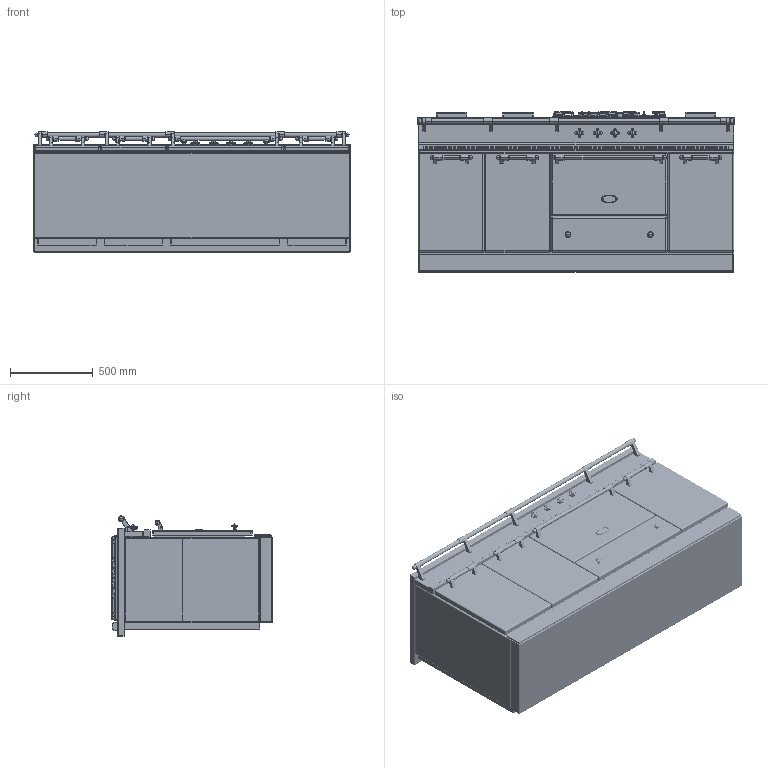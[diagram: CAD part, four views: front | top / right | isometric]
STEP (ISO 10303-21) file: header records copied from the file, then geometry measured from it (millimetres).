
FILE_DESCRIPTION((''),'2;1');
FILE_NAME('LG1931G_ASM','2021-12-08T09:02:28',('r.avril'),(''),'CREO PARAMETRIC BY PTC INC, 2017260','CREO PARAMETRIC BY PTC INC, 2017260','');
FILE_SCHEMA(('AP203_CONFIGURATION_CONTROLLED_3D_DESIGN_OF_MECHANICAL_PARTS_AND_ASSEMBLIES_MIM_LF { 1 0 10303 403 2 1 2 }'));
Products named in the file (28): BASE_EXPORT_FONTENAY_LG1931G; 65650003; 65650004; 65650006; 65650007; 6531940; 6531941; 6531943; 65049009; 65650001; 6538399; 1931942; 65080022_AF0; 6531942_ASM; BASE_EXPORT_FONTENAY_LG1931G_ASM; TABLE_1900G_CLASSIQUE_3_FEUX; 5KW; 1_5KW; 3KW; 6537025; 65149005; 90000488_ASM; 6537023; 90000565_ASM; CHEMINEE_2020_LG371_EXPORT_STEP; CHEMINEE_2020_LG182_EXPORT_STEP; TABLE_1900G_CLASSIQUE_3_FEUX_ASM; LG1931G_ASM
Assembly tree (48 placements, depth 4):
  LG1931G_ASM
    BASE_EXPORT_FONTENAY_LG1931G_ASM
      BASE_EXPORT_FONTENAY_LG1931G
      65650003
      65650004
      65650006
      65650007  x2
      6531940  x4
      6531941  x4
      6531943  x2
      65049009
      65650001
      6531942_ASM  x4
        6538399
        1931942
        65080022_AF0
    TABLE_1900G_CLASSIQUE_3_FEUX_ASM
      TABLE_1900G_CLASSIQUE_3_FEUX
      5KW
      1_5KW
      3KW
      90000488_ASM  x2
        6537025
        65149005
      90000565_ASM
        6537023
        65149005  x4
      CHEMINEE_2020_LG371_EXPORT_STEP
      CHEMINEE_2020_LG182_EXPORT_STEP  x3
Bounding box: 1905 x 965 x 724 mm (x, y, z)
Volume: 697430582.7 mm3; surface area: 16374155.4 mm2
Topology: 62 solids, 77 shells, 6797 faces, 17581 edges, 10897 vertices
Faces by surface type: plane 2679, cylinder 2328, bspline 845, torus 311, cone 274, sphere 206, extrusion 134, revolution 20
Entity records: 175536 total; most frequent: CARTESIAN_POINT 52539, ORIENTED_EDGE 21174, DIRECTION 19644, EDGE_CURVE 10601, AXIS2_PLACEMENT_3D 6824, VERTEX_POINT 6584, VECTOR 5909, LINE 5859
